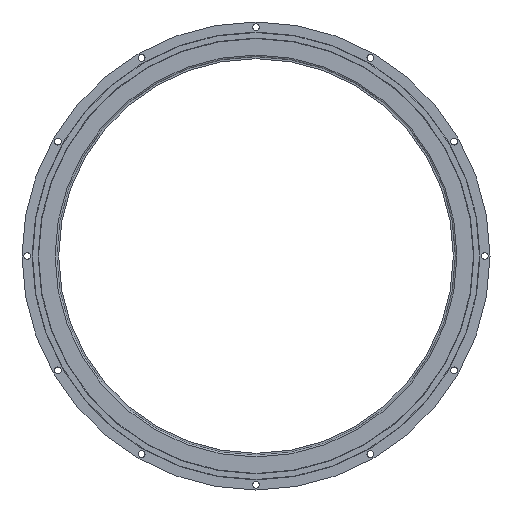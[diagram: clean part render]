
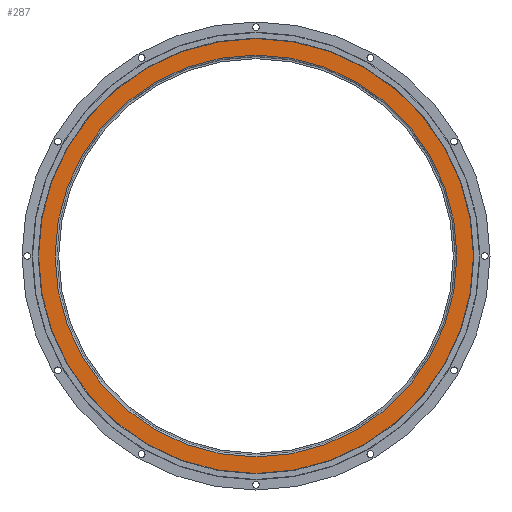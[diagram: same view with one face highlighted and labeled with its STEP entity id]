
A CAD part, left-side view. The second image highlights one B-rep face of the part: STEP entity #287.
In plain terms, the highlighted planar face has unit normal (-1, 0, 0).
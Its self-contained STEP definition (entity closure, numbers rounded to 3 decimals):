
#287=ADVANCED_FACE('',(#632,#634),#636,.T.);
#632=FACE_BOUND('',#633,.T.);
#633=EDGE_LOOP('',(#771));
#634=FACE_BOUND('',#635,.T.);
#635=EDGE_LOOP('',(#772));
#636=PLANE('',#637);
#637=AXIS2_PLACEMENT_3D('',#638,#639,#640);
#638=CARTESIAN_POINT('',(-40.,0.,0.));
#639=DIRECTION('',(-1.,0.,0.));
#640=DIRECTION('',(0.,0.,1.));
#771=ORIENTED_EDGE('',*,*,#822,.T.);
#772=ORIENTED_EDGE('',*,*,#824,.F.);
#822=EDGE_CURVE('',#904,#904,#905,.T.);
#824=EDGE_CURVE('',#908,#908,#909,.T.);
#904=VERTEX_POINT('',#1105);
#905=CIRCLE('',#1106,269.5);
#908=VERTEX_POINT('',#1115);
#909=CIRCLE('',#1116,249.);
#1105=CARTESIAN_POINT('',(-40.,0.,269.5));
#1106=AXIS2_PLACEMENT_3D('',#1107,#1108,#1109);
#1107=CARTESIAN_POINT('',(-40.,0.,0.));
#1108=DIRECTION('',(-1.,0.,0.));
#1109=DIRECTION('',(0.,0.,1.));
#1115=CARTESIAN_POINT('',(-40.,0.,249.));
#1116=AXIS2_PLACEMENT_3D('',#1117,#1118,#1119);
#1117=CARTESIAN_POINT('',(-40.,0.,0.));
#1118=DIRECTION('',(-1.,0.,0.));
#1119=DIRECTION('',(0.,0.,1.));
